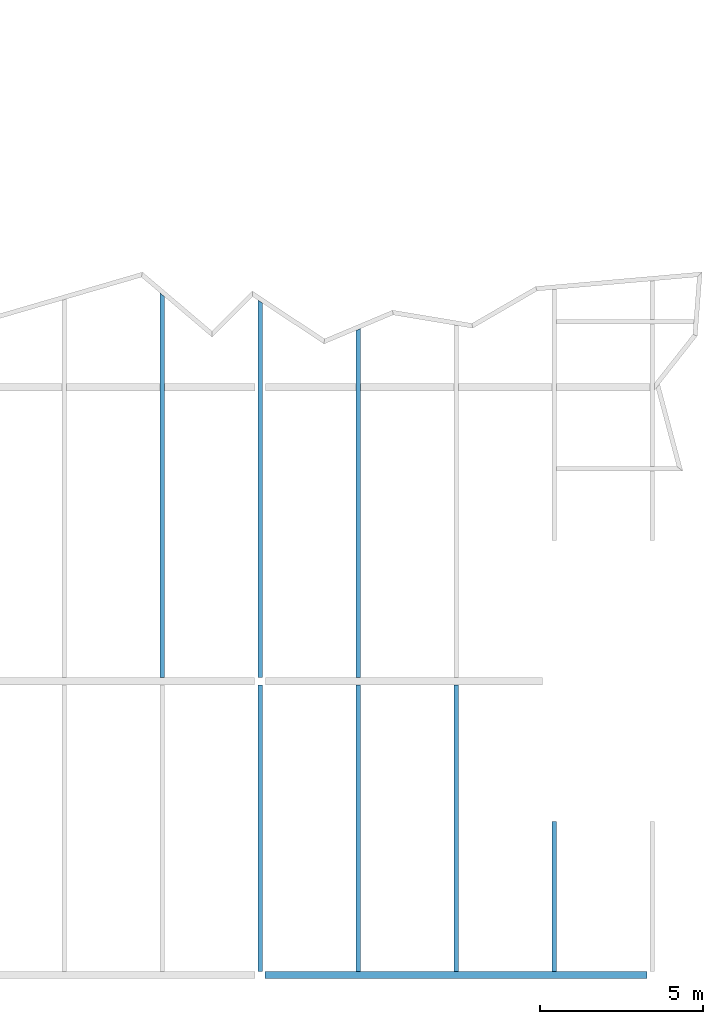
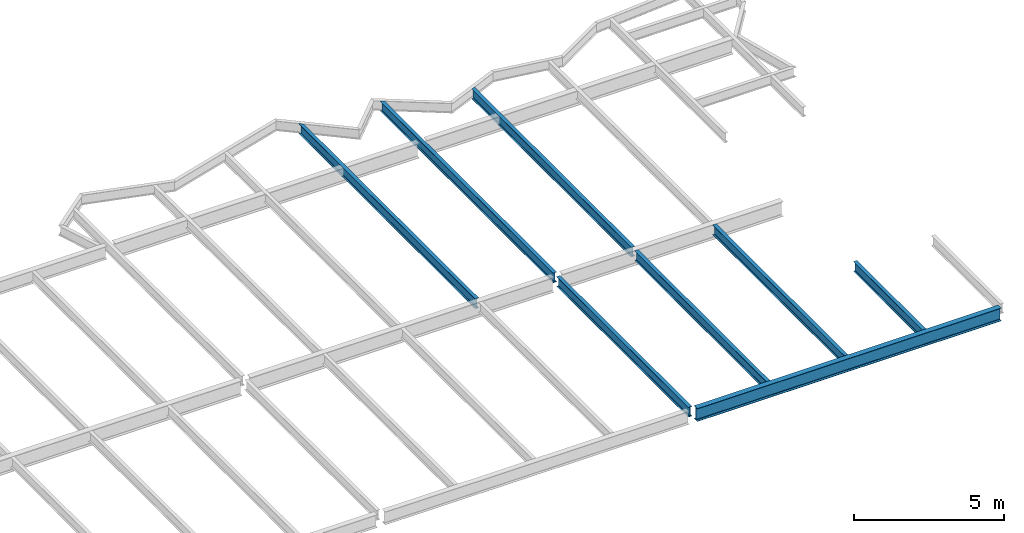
# One storey, part 18 of 21: 8 beams.
"""IFC2X3 building model written with IfcOpenShell, lengths in millimetres."""

from ifc_helpers import new_model, si_unit, origin, place, context, project, spatial, faceted_brep, material, element, save


model = new_model("IFC2X3")

# Units and contexts
context_of_model = context(None, 3, precision=1e-05, world=origin())
ifc_project = project(units=[si_unit("LENGTHUNIT", "METRE", prefix="MILLI")], contexts=[context_of_model])

# Building, storey
building = spatial("IfcBuilding", under=ifc_project, Name="Building", CompositionType="ELEMENT")
storey = spatial("IfcBuildingStorey", under=building, Name="FL3-FRM", CompositionType="ELEMENT")

# Beams
ifc_material_1 = material(Name="A992")
beam_1_placement = place(None, origin())
element("IfcBeam", 1, at=beam_1_placement, inside=storey, material=ifc_material_1, Name="B494", context=context_of_model, shape_type="Brep", body=[
    faceted_brep([(72070.0, 9104.5, 8474.0), (71930.0, 9104.5, 8474.0), (71930.0, 17885.5, 8474.0), (72070.0, 17885.5, 8474.0), (71930.0, 9104.5, 8482.8), (71930.0, 17885.5, 8482.8), (71986.6, 9104.5, 8482.8), (71986.6, 17885.5, 8482.8), (71989.2, 9104.5, 8483.15), (71989.2, 17885.5, 8483.15), (71991.7, 9104.5, 8484.17), (71991.7, 17885.5, 8484.17), (71993.8, 9104.5, 8485.79), (71993.8, 17885.5, 8485.79), (71995.4, 9104.5, 8487.9), (71995.4, 17885.5, 8487.9), (71996.5, 9104.5, 8490.36), (71996.5, 17885.5, 8490.36), (71996.8, 9104.5, 8493.0), (71996.8, 17885.5, 8493.0), (71996.8, 9104.5, 8854.0), (71996.8, 17885.5, 8854.0), (71996.5, 9104.5, 8856.64), (71996.5, 17885.5, 8856.64), (71995.4, 9104.5, 8859.1), (71995.4, 17885.5, 8859.1), (71993.8, 9104.5, 8861.21), (71993.8, 17885.5, 8861.21), (71991.7, 9104.5, 8862.83), (71991.7, 17885.5, 8862.83), (71989.2, 9104.5, 8863.85), (71989.2, 17885.5, 8863.85), (71986.6, 9104.5, 8864.2), (71986.6, 17885.5, 8864.2), (71930.0, 9104.5, 8864.2), (71930.0, 17885.5, 8864.2), (71930.0, 9104.5, 8873.0), (71930.0, 17885.5, 8873.0), (72070.0, 9104.5, 8873.0), (72070.0, 17885.5, 8873.0), (72070.0, 9104.5, 8864.2), (72070.0, 17885.5, 8864.2), (72013.4, 9104.5, 8864.2), (72013.4, 17885.5, 8864.2), (72010.8, 9104.5, 8863.85), (72010.8, 17885.5, 8863.85), (72008.3, 9104.5, 8862.83), (72008.3, 17885.5, 8862.83), (72006.2, 9104.5, 8861.21), (72006.2, 17885.5, 8861.21), (72004.6, 9104.5, 8859.1), (72004.6, 17885.5, 8859.1), (72003.5, 9104.5, 8856.64), (72003.5, 17885.5, 8856.64), (72003.2, 9104.5, 8854.0), (72003.2, 17885.5, 8854.0), (72003.2, 9104.5, 8493.0), (72003.2, 17885.5, 8493.0), (72003.5, 9104.5, 8490.36), (72003.5, 17885.5, 8490.36), (72004.6, 9104.5, 8487.9), (72004.6, 17885.5, 8487.9), (72006.2, 9104.5, 8485.79), (72006.2, 17885.5, 8485.79), (72008.3, 9104.5, 8484.17), (72008.3, 17885.5, 8484.17), (72010.8, 9104.5, 8483.15), (72010.8, 17885.5, 8483.15), (72013.4, 9104.5, 8482.8), (72013.4, 17885.5, 8482.8), (72070.0, 9104.5, 8482.8), (72070.0, 17885.5, 8482.8)], [[[0, 1, 2, 3]], [[1, 4, 5, 2]], [[4, 6, 7, 5]], [[6, 8, 9, 7]], [[8, 10, 11, 9]], [[10, 12, 13, 11]], [[12, 14, 15, 13]], [[14, 16, 17, 15]], [[16, 18, 19, 17]], [[18, 20, 21, 19]], [[20, 22, 23, 21]], [[22, 24, 25, 23]], [[24, 26, 27, 25]], [[26, 28, 29, 27]], [[28, 30, 31, 29]], [[30, 32, 33, 31]], [[32, 34, 35, 33]], [[34, 36, 37, 35]], [[36, 38, 39, 37]], [[38, 40, 41, 39]], [[40, 42, 43, 41]], [[42, 44, 45, 43]], [[44, 46, 47, 45]], [[46, 48, 49, 47]], [[48, 50, 51, 49]], [[50, 52, 53, 51]], [[52, 54, 55, 53]], [[54, 56, 57, 55]], [[56, 58, 59, 57]], [[58, 60, 61, 59]], [[60, 62, 63, 61]], [[62, 64, 65, 63]], [[64, 66, 67, 65]], [[66, 68, 69, 67]], [[68, 70, 71, 69]], [[70, 0, 3, 71]], [[0, 70, 68, 66, 64, 62, 60, 58, 56, 54, 52, 50, 48, 46, 44, 42, 40, 38, 36, 34, 32, 30, 28, 26, 24, 22, 20, 18, 16, 14, 12, 10, 8, 6, 4, 1]], [[3, 2, 5, 7, 9, 11, 13, 15, 17, 19, 21, 23, 25, 27, 29, 31, 33, 35, 37, 39, 41, 43, 45, 47, 49, 51, 53, 55, 57, 59, 61, 63, 65, 67, 69, 71]]]),
])
ifc_material_2 = material(Name="A992")
beam_2_placement = place(None, origin())
element("IfcBeam", 2, at=beam_2_placement, inside=storey, material=ifc_material_2, Name="Column486", context=context_of_model, shape_type="Brep", body=[
    faceted_brep([(72154.0, 8895.5, 8345.0), (72154.0, 9104.5, 8345.0), (83847.0, 9104.5, 8345.0), (83847.0, 8895.5, 8345.0), (72154.0, 9104.5, 8358.3), (83847.0, 9104.5, 8358.3), (72154.0, 9017.45, 8358.3), (83847.0, 9017.45, 8358.3), (72154.0, 9014.16, 8358.73), (83847.0, 9014.16, 8358.73), (72154.0, 9011.1, 8360.0), (83847.0, 9011.1, 8360.0), (72154.0, 9008.47, 8362.02), (83847.0, 9008.47, 8362.02), (72154.0, 9006.45, 8364.65), (83847.0, 9006.45, 8364.65), (72154.0, 9005.18, 8367.71), (83847.0, 9005.18, 8367.71), (72154.0, 9004.75, 8371.0), (83847.0, 9004.75, 8371.0), (72154.0, 9004.75, 8847.0), (83847.0, 9004.75, 8847.0), (72154.0, 9005.18, 8850.29), (83847.0, 9005.18, 8850.29), (72154.0, 9006.45, 8853.35), (83847.0, 9006.45, 8853.35), (72154.0, 9008.47, 8855.98), (83847.0, 9008.47, 8855.98), (72154.0, 9011.1, 8858.0), (83847.0, 9011.1, 8858.0), (72154.0, 9014.16, 8859.27), (83847.0, 9014.16, 8859.27), (72154.0, 9017.45, 8859.7), (83847.0, 9017.45, 8859.7), (72154.0, 9104.5, 8859.7), (83847.0, 9104.5, 8859.7), (72154.0, 9104.5, 8873.0), (83847.0, 9104.5, 8873.0), (72154.0, 8895.5, 8873.0), (83847.0, 8895.5, 8873.0), (72154.0, 8895.5, 8859.7), (83847.0, 8895.5, 8859.7), (72154.0, 8982.55, 8859.7), (83847.0, 8982.55, 8859.7), (72154.0, 8985.84, 8859.27), (83847.0, 8985.84, 8859.27), (72154.0, 8988.9, 8858.0), (83847.0, 8988.9, 8858.0), (72154.0, 8991.53, 8855.98), (83847.0, 8991.53, 8855.98), (72154.0, 8993.55, 8853.35), (83847.0, 8993.55, 8853.35), (72154.0, 8994.82, 8850.29), (83847.0, 8994.82, 8850.29), (72154.0, 8995.25, 8847.0), (83847.0, 8995.25, 8847.0), (72154.0, 8995.25, 8371.0), (83847.0, 8995.25, 8371.0), (72154.0, 8994.82, 8367.71), (83847.0, 8994.82, 8367.71), (72154.0, 8993.55, 8364.65), (83847.0, 8993.55, 8364.65), (72154.0, 8991.53, 8362.02), (83847.0, 8991.53, 8362.02), (72154.0, 8988.9, 8360.0), (83847.0, 8988.9, 8360.0), (72154.0, 8985.84, 8358.73), (83847.0, 8985.84, 8358.73), (72154.0, 8982.55, 8358.3), (83847.0, 8982.55, 8358.3), (72154.0, 8895.5, 8358.3), (83847.0, 8895.5, 8358.3)], [[[0, 1, 2, 3]], [[1, 4, 5, 2]], [[4, 6, 7, 5]], [[6, 8, 9, 7]], [[8, 10, 11, 9]], [[10, 12, 13, 11]], [[12, 14, 15, 13]], [[14, 16, 17, 15]], [[16, 18, 19, 17]], [[18, 20, 21, 19]], [[20, 22, 23, 21]], [[22, 24, 25, 23]], [[24, 26, 27, 25]], [[26, 28, 29, 27]], [[28, 30, 31, 29]], [[30, 32, 33, 31]], [[32, 34, 35, 33]], [[34, 36, 37, 35]], [[36, 38, 39, 37]], [[38, 40, 41, 39]], [[40, 42, 43, 41]], [[42, 44, 45, 43]], [[44, 46, 47, 45]], [[46, 48, 49, 47]], [[48, 50, 51, 49]], [[50, 52, 53, 51]], [[52, 54, 55, 53]], [[54, 56, 57, 55]], [[56, 58, 59, 57]], [[58, 60, 61, 59]], [[60, 62, 63, 61]], [[62, 64, 65, 63]], [[64, 66, 67, 65]], [[66, 68, 69, 67]], [[68, 70, 71, 69]], [[70, 0, 3, 71]], [[0, 70, 68, 66, 64, 62, 60, 58, 56, 54, 52, 50, 48, 46, 44, 42, 40, 38, 36, 34, 32, 30, 28, 26, 24, 22, 20, 18, 16, 14, 12, 10, 8, 6, 4, 1]], [[3, 2, 5, 7, 9, 11, 13, 15, 17, 19, 21, 23, 25, 27, 29, 31, 33, 35, 37, 39, 41, 43, 45, 47, 49, 51, 53, 55, 57, 59, 61, 63, 65, 67, 69, 71]]]),
])
ifc_material_3 = material(Name="A992")
beam_3_placement = place(None, origin())
element("IfcBeam", 3, at=beam_3_placement, inside=storey, material=ifc_material_3, Name="B1047", context=context_of_model, shape_type="Brep", body=[
    faceted_brep([(74930.0, 28731.0, 8474.0), (75070.0, 28790.0, 8474.0), (75070.0, 18114.5, 8474.0), (74930.0, 18114.5, 8474.0), (75070.0, 28790.0, 8482.8), (75070.0, 18114.5, 8482.8), (75013.4, 28766.1, 8482.8), (75013.4, 18114.5, 8482.8), (75012.0, 28765.5, 8482.9), (75011.9, 18114.5, 8482.9), (75010.5, 28764.9, 8483.21), (75010.5, 18114.5, 8483.21), (75009.2, 28764.3, 8483.72), (75009.2, 18114.5, 8483.72), (75007.9, 28763.8, 8484.41), (75007.9, 18114.5, 8484.42), (75006.7, 28763.3, 8485.28), (75006.7, 18114.5, 8485.29), (75005.7, 28762.9, 8486.32), (75005.7, 18114.5, 8486.32), (75004.8, 28762.5, 8487.47), (75004.8, 18114.5, 8487.49), (75004.1, 28762.2, 8488.76), (75004.1, 18114.5, 8488.76), (75003.6, 28762.0, 8490.12), (75003.6, 18114.5, 8490.13), (75003.3, 28761.9, 8491.54), (75003.3, 18114.5, 8491.55), (75003.2, 28761.8, 8493.0), (75003.2, 18114.5, 8493.0), (75003.2, 28761.8, 8854.0), (75003.2, 18114.5, 8854.0), (75003.3, 28761.9, 8855.46), (75003.3, 18114.5, 8855.45), (75003.6, 28762.0, 8856.88), (75003.6, 18114.5, 8856.87), (75004.1, 28762.2, 8858.24), (75004.1, 18114.5, 8858.24), (75004.8, 28762.5, 8859.53), (75004.8, 18114.5, 8859.51), (75005.7, 28762.9, 8860.68), (75005.7, 18114.5, 8860.68), (75006.7, 28763.3, 8861.72), (75006.7, 18114.5, 8861.71), (75007.9, 28763.8, 8862.59), (75007.9, 18114.5, 8862.58), (75009.2, 28764.3, 8863.28), (75009.2, 18114.5, 8863.28), (75010.5, 28764.9, 8863.79), (75010.5, 18114.5, 8863.79), (75012.0, 28765.5, 8864.1), (75011.9, 18114.5, 8864.1), (75013.4, 28766.1, 8864.2), (75013.4, 18114.5, 8864.2), (75070.0, 28790.0, 8864.2), (75070.0, 18114.5, 8864.2), (75070.0, 28790.0, 8873.0), (75070.0, 18114.5, 8873.0), (74930.0, 28731.0, 8873.0), (74930.0, 18114.5, 8873.0), (74930.0, 28731.0, 8864.2), (74930.0, 18114.5, 8864.2), (74986.6, 28754.8, 8864.2), (74986.6, 18114.5, 8864.2), (74988.0, 28755.4, 8864.1), (74988.1, 18114.5, 8864.1), (74989.5, 28756.0, 8863.79), (74989.5, 18114.5, 8863.79), (74990.8, 28756.6, 8863.28), (74990.8, 18114.5, 8863.28), (74992.1, 28757.2, 8862.59), (74992.1, 18114.5, 8862.58), (74993.3, 28757.6, 8861.72), (74993.3, 18114.5, 8861.71), (74994.3, 28758.1, 8860.68), (74994.3, 18114.5, 8860.68), (74995.2, 28758.4, 8859.53), (74995.2, 18114.5, 8859.51), (74995.9, 28758.7, 8858.24), (74995.9, 18114.5, 8858.24), (74996.4, 28759.0, 8856.88), (74996.4, 18114.5, 8856.87), (74996.7, 28759.1, 8855.46), (74996.7, 18114.5, 8855.45), (74996.8, 28759.1, 8854.0), (74996.8, 18114.5, 8854.0), (74996.8, 28759.1, 8493.0), (74996.8, 18114.5, 8493.0), (74996.7, 28759.1, 8491.54), (74996.7, 18114.5, 8491.55), (74996.4, 28759.0, 8490.12), (74996.4, 18114.5, 8490.13), (74995.9, 28758.7, 8488.76), (74995.9, 18114.5, 8488.76), (74995.2, 28758.4, 8487.47), (74995.2, 18114.5, 8487.49), (74994.3, 28758.1, 8486.32), (74994.3, 18114.5, 8486.32), (74993.3, 28757.6, 8485.28), (74993.3, 18114.5, 8485.29), (74992.1, 28757.2, 8484.41), (74992.1, 18114.5, 8484.42), (74990.8, 28756.6, 8483.72), (74990.8, 18114.5, 8483.72), (74989.5, 28756.0, 8483.21), (74989.5, 18114.5, 8483.21), (74988.0, 28755.4, 8482.9), (74988.1, 18114.5, 8482.9), (74986.6, 28754.8, 8482.8), (74986.6, 18114.5, 8482.8), (74930.0, 28731.0, 8482.8), (74930.0, 18114.5, 8482.8)], [[[0, 1, 2, 3]], [[1, 4, 5, 2]], [[4, 6, 7, 5]], [[6, 8, 9, 7]], [[8, 10, 11, 9]], [[10, 12, 13, 11]], [[12, 14, 15, 13]], [[14, 16, 17, 15]], [[16, 18, 19, 17]], [[18, 20, 21, 19]], [[20, 22, 23, 21]], [[22, 24, 25, 23]], [[24, 26, 27, 25]], [[26, 28, 29, 27]], [[28, 30, 31, 29]], [[30, 32, 33, 31]], [[32, 34, 35, 33]], [[34, 36, 37, 35]], [[36, 38, 39, 37]], [[38, 40, 41, 39]], [[40, 42, 43, 41]], [[42, 44, 45, 43]], [[44, 46, 47, 45]], [[46, 48, 49, 47]], [[48, 50, 51, 49]], [[50, 52, 53, 51]], [[52, 54, 55, 53]], [[54, 56, 57, 55]], [[56, 58, 59, 57]], [[58, 60, 61, 59]], [[60, 62, 63, 61]], [[62, 64, 65, 63]], [[64, 66, 67, 65]], [[66, 68, 69, 67]], [[68, 70, 71, 69]], [[70, 72, 73, 71]], [[72, 74, 75, 73]], [[74, 76, 77, 75]], [[76, 78, 79, 77]], [[78, 80, 81, 79]], [[80, 82, 83, 81]], [[82, 84, 85, 83]], [[84, 86, 87, 85]], [[86, 88, 89, 87]], [[88, 90, 91, 89]], [[90, 92, 93, 91]], [[92, 94, 95, 93]], [[94, 96, 97, 95]], [[96, 98, 99, 97]], [[98, 100, 101, 99]], [[100, 102, 103, 101]], [[102, 104, 105, 103]], [[104, 106, 107, 105]], [[106, 108, 109, 107]], [[108, 110, 111, 109]], [[110, 0, 3, 111]], [[0, 110, 108, 106, 104, 102, 100, 98, 96, 94, 92, 90, 88, 86, 84, 82, 80, 78, 76, 74, 72, 70, 68, 66, 64, 62, 60, 58, 56, 54, 52, 50, 48, 46, 44, 42, 40, 38, 36, 34, 32, 30, 28, 26, 24, 22, 20, 18, 16, 14, 12, 10, 8, 6, 4, 1]], [[3, 2, 5, 7, 9, 11, 13, 15, 17, 19, 21, 23, 25, 27, 29, 31, 33, 35, 37, 39, 41, 43, 45, 47, 49, 51, 53, 55, 57, 59, 61, 63, 65, 67, 69, 71, 73, 75, 77, 79, 81, 83, 85, 87, 89, 91, 93, 95, 97, 99, 101, 103, 105, 107, 109, 111]]]),
])
ifc_material_4 = material(Name="A992")
beam_4_placement = place(None, origin())
element("IfcBeam", 4, at=beam_4_placement, inside=storey, material=ifc_material_4, Name="B1050", context=context_of_model, shape_type="Brep", body=[
    faceted_brep([(71930.0, 29663.5, 8474.0), (72070.0, 29570.7, 8474.0), (72070.0, 18114.5, 8474.0), (71930.0, 18114.5, 8474.0), (72070.0, 29570.7, 8482.8), (72070.0, 18114.5, 8482.8), (72013.4, 29608.2, 8482.8), (72013.4, 18114.5, 8482.8), (72012.0, 29609.2, 8482.89), (72011.9, 18114.5, 8482.9), (72010.5, 29610.1, 8483.2), (72010.5, 18114.5, 8483.21), (72009.2, 29611.0, 8483.72), (72009.2, 18114.5, 8483.72), (72007.9, 29611.8, 8484.4), (72007.9, 18114.5, 8484.42), (72006.7, 29612.6, 8485.27), (72006.7, 18114.5, 8485.29), (72005.7, 29613.3, 8486.31), (72005.7, 18114.5, 8486.32), (72004.8, 29613.9, 8487.46), (72004.8, 18114.5, 8487.49), (72004.1, 29614.3, 8488.75), (72004.1, 18114.5, 8488.76), (72003.6, 29614.7, 8490.12), (72003.6, 18114.5, 8490.13), (72003.3, 29614.9, 8491.54), (72003.3, 18114.5, 8491.55), (72003.2, 29615.0, 8493.0), (72003.2, 18114.5, 8493.0), (72003.2, 29615.0, 8854.0), (72003.2, 18114.5, 8854.0), (72003.3, 29614.9, 8855.46), (72003.3, 18114.5, 8855.45), (72003.6, 29614.7, 8856.88), (72003.6, 18114.5, 8856.87), (72004.1, 29614.3, 8858.25), (72004.1, 18114.5, 8858.24), (72004.8, 29613.9, 8859.54), (72004.8, 18114.5, 8859.51), (72005.7, 29613.3, 8860.69), (72005.7, 18114.5, 8860.68), (72006.7, 29612.6, 8861.73), (72006.7, 18114.5, 8861.71), (72007.9, 29611.8, 8862.6), (72007.9, 18114.5, 8862.58), (72009.2, 29611.0, 8863.28), (72009.2, 18114.5, 8863.28), (72010.5, 29610.1, 8863.8), (72010.5, 18114.5, 8863.79), (72012.0, 29609.2, 8864.11), (72011.9, 18114.5, 8864.1), (72013.4, 29608.2, 8864.2), (72013.4, 18114.5, 8864.2), (72070.0, 29570.7, 8864.2), (72070.0, 18114.5, 8864.2), (72070.0, 29570.7, 8873.0), (72070.0, 18114.5, 8873.0), (71930.0, 29663.5, 8873.0), (71930.0, 18114.5, 8873.0), (71930.0, 29663.5, 8864.2), (71930.0, 18114.5, 8864.2), (71986.6, 29626.0, 8864.2), (71986.6, 18114.5, 8864.2), (71988.0, 29625.0, 8864.11), (71988.1, 18114.5, 8864.1), (71989.5, 29624.1, 8863.8), (71989.5, 18114.5, 8863.79), (71990.8, 29623.2, 8863.28), (71990.8, 18114.5, 8863.28), (71992.1, 29622.3, 8862.6), (71992.1, 18114.5, 8862.58), (71993.3, 29621.5, 8861.73), (71993.3, 18114.5, 8861.71), (71994.3, 29620.9, 8860.69), (71994.3, 18114.5, 8860.68), (71995.2, 29620.3, 8859.54), (71995.2, 18114.5, 8859.51), (71995.9, 29619.8, 8858.25), (71995.9, 18114.5, 8858.24), (71996.4, 29619.5, 8856.88), (71996.4, 18114.5, 8856.87), (71996.7, 29619.3, 8855.46), (71996.7, 18114.5, 8855.45), (71996.8, 29619.2, 8854.0), (71996.8, 18114.5, 8854.0), (71996.8, 29619.2, 8493.0), (71996.8, 18114.5, 8493.0), (71996.7, 29619.3, 8491.54), (71996.7, 18114.5, 8491.55), (71996.4, 29619.5, 8490.12), (71996.4, 18114.5, 8490.13), (71995.9, 29619.8, 8488.75), (71995.9, 18114.5, 8488.76), (71995.2, 29620.3, 8487.46), (71995.2, 18114.5, 8487.49), (71994.3, 29620.9, 8486.31), (71994.3, 18114.5, 8486.32), (71993.3, 29621.5, 8485.27), (71993.3, 18114.5, 8485.29), (71992.1, 29622.3, 8484.4), (71992.1, 18114.5, 8484.42), (71990.8, 29623.2, 8483.72), (71990.8, 18114.5, 8483.72), (71989.5, 29624.1, 8483.2), (71989.5, 18114.5, 8483.21), (71988.0, 29625.0, 8482.89), (71988.1, 18114.5, 8482.9), (71986.6, 29626.0, 8482.8), (71986.6, 18114.5, 8482.8), (71930.0, 29663.5, 8482.8), (71930.0, 18114.5, 8482.8)], [[[0, 1, 2, 3]], [[1, 4, 5, 2]], [[4, 6, 7, 5]], [[6, 8, 9, 7]], [[8, 10, 11, 9]], [[10, 12, 13, 11]], [[12, 14, 15, 13]], [[14, 16, 17, 15]], [[16, 18, 19, 17]], [[18, 20, 21, 19]], [[20, 22, 23, 21]], [[22, 24, 25, 23]], [[24, 26, 27, 25]], [[26, 28, 29, 27]], [[28, 30, 31, 29]], [[30, 32, 33, 31]], [[32, 34, 35, 33]], [[34, 36, 37, 35]], [[36, 38, 39, 37]], [[38, 40, 41, 39]], [[40, 42, 43, 41]], [[42, 44, 45, 43]], [[44, 46, 47, 45]], [[46, 48, 49, 47]], [[48, 50, 51, 49]], [[50, 52, 53, 51]], [[52, 54, 55, 53]], [[54, 56, 57, 55]], [[56, 58, 59, 57]], [[58, 60, 61, 59]], [[60, 62, 63, 61]], [[62, 64, 65, 63]], [[64, 66, 67, 65]], [[66, 68, 69, 67]], [[68, 70, 71, 69]], [[70, 72, 73, 71]], [[72, 74, 75, 73]], [[74, 76, 77, 75]], [[76, 78, 79, 77]], [[78, 80, 81, 79]], [[80, 82, 83, 81]], [[82, 84, 85, 83]], [[84, 86, 87, 85]], [[86, 88, 89, 87]], [[88, 90, 91, 89]], [[90, 92, 93, 91]], [[92, 94, 95, 93]], [[94, 96, 97, 95]], [[96, 98, 99, 97]], [[98, 100, 101, 99]], [[100, 102, 103, 101]], [[102, 104, 105, 103]], [[104, 106, 107, 105]], [[106, 108, 109, 107]], [[108, 110, 111, 109]], [[110, 0, 3, 111]], [[0, 110, 108, 106, 104, 102, 100, 98, 96, 94, 92, 90, 88, 86, 84, 82, 80, 78, 76, 74, 72, 70, 68, 66, 64, 62, 60, 58, 56, 54, 52, 50, 48, 46, 44, 42, 40, 38, 36, 34, 32, 30, 28, 26, 24, 22, 20, 18, 16, 14, 12, 10, 8, 6, 4, 1]], [[3, 2, 5, 7, 9, 11, 13, 15, 17, 19, 21, 23, 25, 27, 29, 31, 33, 35, 37, 39, 41, 43, 45, 47, 49, 51, 53, 55, 57, 59, 61, 63, 65, 67, 69, 71, 73, 75, 77, 79, 81, 83, 85, 87, 89, 91, 93, 95, 97, 99, 101, 103, 105, 107, 109, 111]]]),
])
ifc_material_5 = material(Name="A992")
beam_5_placement = place(None, origin())
element("IfcBeam", 5, at=beam_5_placement, inside=storey, material=ifc_material_5, Name="B1053", context=context_of_model, shape_type="Brep", body=[
    faceted_brep([(68930.0, 29886.4, 8474.0), (69070.0, 29767.4, 8474.0), (69070.0, 18114.5, 8474.0), (68930.0, 18114.5, 8474.0), (69070.0, 29767.4, 8482.8), (69070.0, 18114.5, 8482.8), (69013.4, 29815.5, 8482.8), (69013.4, 18114.5, 8482.8), (69012.0, 29816.7, 8482.89), (69011.9, 18114.5, 8482.9), (69010.5, 29818.0, 8483.2), (69010.5, 18114.5, 8483.21), (69009.2, 29819.1, 8483.72), (69009.2, 18114.5, 8483.72), (69007.9, 29820.2, 8484.39), (69007.9, 18114.5, 8484.42), (69006.7, 29821.2, 8485.27), (69006.7, 18114.5, 8485.29), (69005.7, 29822.1, 8486.3), (69005.7, 18114.5, 8486.32), (69004.8, 29822.8, 8487.44), (69004.8, 18114.5, 8487.49), (69004.1, 29823.4, 8488.74), (69004.1, 18114.5, 8488.76), (69003.6, 29823.8, 8490.11), (69003.6, 18114.5, 8490.13), (69003.3, 29824.1, 8491.53), (69003.3, 18114.5, 8491.55), (69003.2, 29824.2, 8493.0), (69003.2, 18114.5, 8493.0), (69003.2, 29824.2, 8854.0), (69003.2, 18114.5, 8854.0), (69003.3, 29824.1, 8855.47), (69003.3, 18114.5, 8855.45), (69003.6, 29823.8, 8856.89), (69003.6, 18114.5, 8856.87), (69004.1, 29823.4, 8858.26), (69004.1, 18114.5, 8858.24), (69004.8, 29822.8, 8859.56), (69004.8, 18114.5, 8859.51), (69005.7, 29822.1, 8860.7), (69005.7, 18114.5, 8860.68), (69006.7, 29821.2, 8861.73), (69006.7, 18114.5, 8861.71), (69007.9, 29820.2, 8862.61), (69007.9, 18114.5, 8862.58), (69009.2, 29819.1, 8863.28), (69009.2, 18114.5, 8863.28), (69010.5, 29818.0, 8863.8), (69010.5, 18114.5, 8863.79), (69012.0, 29816.7, 8864.11), (69011.9, 18114.5, 8864.1), (69013.4, 29815.5, 8864.2), (69013.4, 18114.5, 8864.2), (69070.0, 29767.4, 8864.2), (69070.0, 18114.5, 8864.2), (69070.0, 29767.4, 8873.0), (69070.0, 18114.5, 8873.0), (68930.0, 29886.4, 8873.0), (68930.0, 18114.5, 8873.0), (68930.0, 29886.4, 8864.2), (68930.0, 18114.5, 8864.2), (68986.6, 29838.3, 8864.2), (68986.6, 18114.5, 8864.2), (68988.0, 29837.1, 8864.11), (68988.1, 18114.5, 8864.1), (68989.5, 29835.9, 8863.8), (68989.5, 18114.5, 8863.79), (68990.8, 29834.7, 8863.28), (68990.8, 18114.5, 8863.28), (68992.1, 29833.6, 8862.61), (68992.1, 18114.5, 8862.58), (68993.3, 29832.6, 8861.73), (68993.3, 18114.5, 8861.71), (68994.3, 29831.8, 8860.7), (68994.3, 18114.5, 8860.68), (68995.2, 29831.0, 8859.56), (68995.2, 18114.5, 8859.51), (68995.9, 29830.4, 8858.26), (68995.9, 18114.5, 8858.24), (68996.4, 29830.0, 8856.89), (68996.4, 18114.5, 8856.87), (68996.7, 29829.7, 8855.47), (68996.7, 18114.5, 8855.45), (68996.8, 29829.6, 8854.0), (68996.8, 18114.5, 8854.0), (68996.8, 29829.6, 8493.0), (68996.8, 18114.5, 8493.0), (68996.7, 29829.7, 8491.53), (68996.7, 18114.5, 8491.55), (68996.4, 29830.0, 8490.11), (68996.4, 18114.5, 8490.13), (68995.9, 29830.4, 8488.74), (68995.9, 18114.5, 8488.76), (68995.2, 29831.0, 8487.44), (68995.2, 18114.5, 8487.49), (68994.3, 29831.8, 8486.3), (68994.3, 18114.5, 8486.32), (68993.3, 29832.6, 8485.27), (68993.3, 18114.5, 8485.29), (68992.1, 29833.6, 8484.39), (68992.1, 18114.5, 8484.42), (68990.8, 29834.7, 8483.72), (68990.8, 18114.5, 8483.72), (68989.5, 29835.9, 8483.2), (68989.5, 18114.5, 8483.21), (68988.0, 29837.1, 8482.89), (68988.1, 18114.5, 8482.9), (68986.6, 29838.3, 8482.8), (68986.6, 18114.5, 8482.8), (68930.0, 29886.4, 8482.8), (68930.0, 18114.5, 8482.8)], [[[0, 1, 2, 3]], [[1, 4, 5, 2]], [[4, 6, 7, 5]], [[6, 8, 9, 7]], [[8, 10, 11, 9]], [[10, 12, 13, 11]], [[12, 14, 15, 13]], [[14, 16, 17, 15]], [[16, 18, 19, 17]], [[18, 20, 21, 19]], [[20, 22, 23, 21]], [[22, 24, 25, 23]], [[24, 26, 27, 25]], [[26, 28, 29, 27]], [[28, 30, 31, 29]], [[30, 32, 33, 31]], [[32, 34, 35, 33]], [[34, 36, 37, 35]], [[36, 38, 39, 37]], [[38, 40, 41, 39]], [[40, 42, 43, 41]], [[42, 44, 45, 43]], [[44, 46, 47, 45]], [[46, 48, 49, 47]], [[48, 50, 51, 49]], [[50, 52, 53, 51]], [[52, 54, 55, 53]], [[54, 56, 57, 55]], [[56, 58, 59, 57]], [[58, 60, 61, 59]], [[60, 62, 63, 61]], [[62, 64, 65, 63]], [[64, 66, 67, 65]], [[66, 68, 69, 67]], [[68, 70, 71, 69]], [[70, 72, 73, 71]], [[72, 74, 75, 73]], [[74, 76, 77, 75]], [[76, 78, 79, 77]], [[78, 80, 81, 79]], [[80, 82, 83, 81]], [[82, 84, 85, 83]], [[84, 86, 87, 85]], [[86, 88, 89, 87]], [[88, 90, 91, 89]], [[90, 92, 93, 91]], [[92, 94, 95, 93]], [[94, 96, 97, 95]], [[96, 98, 99, 97]], [[98, 100, 101, 99]], [[100, 102, 103, 101]], [[102, 104, 105, 103]], [[104, 106, 107, 105]], [[106, 108, 109, 107]], [[108, 110, 111, 109]], [[110, 0, 3, 111]], [[0, 110, 108, 106, 104, 102, 100, 98, 96, 94, 92, 90, 88, 86, 84, 82, 80, 78, 76, 74, 72, 70, 68, 66, 64, 62, 60, 58, 56, 54, 52, 50, 48, 46, 44, 42, 40, 38, 36, 34, 32, 30, 28, 26, 24, 22, 20, 18, 16, 14, 12, 10, 8, 6, 4, 1]], [[3, 2, 5, 7, 9, 11, 13, 15, 17, 19, 21, 23, 25, 27, 29, 31, 33, 35, 37, 39, 41, 43, 45, 47, 49, 51, 53, 55, 57, 59, 61, 63, 65, 67, 69, 71, 73, 75, 77, 79, 81, 83, 85, 87, 89, 91, 93, 95, 97, 99, 101, 103, 105, 107, 109, 111]]]),
])
ifc_material_6 = material(Name="A992")
beam_6_placement = place(None, origin())
element("IfcBeam", 6, at=beam_6_placement, inside=storey, material=ifc_material_6, Name="B1062", context=context_of_model, shape_type="Brep", body=[
    faceted_brep([(81070.0, 9104.5, 8474.0), (80930.0, 9104.5, 8474.0), (80930.0, 13700.0, 8474.0), (81070.0, 13700.0, 8474.0), (80930.0, 9104.5, 8482.8), (80930.0, 13700.0, 8482.8), (80986.6, 9104.5, 8482.8), (80986.6, 13700.0, 8482.8), (80989.2, 9104.5, 8483.15), (80989.2, 13700.0, 8483.15), (80991.7, 9104.5, 8484.17), (80991.7, 13700.0, 8484.17), (80993.8, 9104.5, 8485.79), (80993.8, 13700.0, 8485.79), (80995.4, 9104.5, 8487.9), (80995.4, 13700.0, 8487.9), (80996.5, 9104.5, 8490.36), (80996.5, 13700.0, 8490.36), (80996.8, 9104.5, 8493.0), (80996.8, 13700.0, 8493.0), (80996.8, 9104.5, 8854.0), (80996.8, 13700.0, 8854.0), (80996.5, 9104.5, 8856.64), (80996.5, 13700.0, 8856.64), (80995.4, 9104.5, 8859.1), (80995.4, 13700.0, 8859.1), (80993.8, 9104.5, 8861.21), (80993.8, 13700.0, 8861.21), (80991.7, 9104.5, 8862.83), (80991.7, 13700.0, 8862.83), (80989.2, 9104.5, 8863.85), (80989.2, 13700.0, 8863.85), (80986.6, 9104.5, 8864.2), (80986.6, 13700.0, 8864.2), (80930.0, 9104.5, 8864.2), (80930.0, 13700.0, 8864.2), (80930.0, 9104.5, 8873.0), (80930.0, 13700.0, 8873.0), (81070.0, 9104.5, 8873.0), (81070.0, 13700.0, 8873.0), (81070.0, 9104.5, 8864.2), (81070.0, 13700.0, 8864.2), (81013.4, 9104.5, 8864.2), (81013.4, 13700.0, 8864.2), (81010.8, 9104.5, 8863.85), (81010.8, 13700.0, 8863.85), (81008.3, 9104.5, 8862.83), (81008.3, 13700.0, 8862.83), (81006.2, 9104.5, 8861.21), (81006.2, 13700.0, 8861.21), (81004.6, 9104.5, 8859.1), (81004.6, 13700.0, 8859.1), (81003.5, 9104.5, 8856.64), (81003.5, 13700.0, 8856.64), (81003.2, 9104.5, 8854.0), (81003.2, 13700.0, 8854.0), (81003.2, 9104.5, 8493.0), (81003.2, 13700.0, 8493.0), (81003.5, 9104.5, 8490.36), (81003.5, 13700.0, 8490.36), (81004.6, 9104.5, 8487.9), (81004.6, 13700.0, 8487.9), (81006.2, 9104.5, 8485.79), (81006.2, 13700.0, 8485.79), (81008.3, 9104.5, 8484.17), (81008.3, 13700.0, 8484.17), (81010.8, 9104.5, 8483.15), (81010.8, 13700.0, 8483.15), (81013.4, 9104.5, 8482.8), (81013.4, 13700.0, 8482.8), (81070.0, 9104.5, 8482.8), (81070.0, 13700.0, 8482.8)], [[[0, 1, 2, 3]], [[1, 4, 5, 2]], [[4, 6, 7, 5]], [[6, 8, 9, 7]], [[8, 10, 11, 9]], [[10, 12, 13, 11]], [[12, 14, 15, 13]], [[14, 16, 17, 15]], [[16, 18, 19, 17]], [[18, 20, 21, 19]], [[20, 22, 23, 21]], [[22, 24, 25, 23]], [[24, 26, 27, 25]], [[26, 28, 29, 27]], [[28, 30, 31, 29]], [[30, 32, 33, 31]], [[32, 34, 35, 33]], [[34, 36, 37, 35]], [[36, 38, 39, 37]], [[38, 40, 41, 39]], [[40, 42, 43, 41]], [[42, 44, 45, 43]], [[44, 46, 47, 45]], [[46, 48, 49, 47]], [[48, 50, 51, 49]], [[50, 52, 53, 51]], [[52, 54, 55, 53]], [[54, 56, 57, 55]], [[56, 58, 59, 57]], [[58, 60, 61, 59]], [[60, 62, 63, 61]], [[62, 64, 65, 63]], [[64, 66, 67, 65]], [[66, 68, 69, 67]], [[68, 70, 71, 69]], [[70, 0, 3, 71]], [[0, 70, 68, 66, 64, 62, 60, 58, 56, 54, 52, 50, 48, 46, 44, 42, 40, 38, 36, 34, 32, 30, 28, 26, 24, 22, 20, 18, 16, 14, 12, 10, 8, 6, 4, 1]], [[3, 2, 5, 7, 9, 11, 13, 15, 17, 19, 21, 23, 25, 27, 29, 31, 33, 35, 37, 39, 41, 43, 45, 47, 49, 51, 53, 55, 57, 59, 61, 63, 65, 67, 69, 71]]]),
])
ifc_material_7 = material(Name="A992")
beam_7_placement = place(None, origin())
element("IfcBeam", 7, at=beam_7_placement, inside=storey, material=ifc_material_7, Name="B1063", context=context_of_model, shape_type="Brep", body=[
    faceted_brep([(78070.0, 9104.5, 8474.0), (77930.0, 9104.5, 8474.0), (77930.0, 17885.5, 8474.0), (78070.0, 17885.5, 8474.0), (77930.0, 9104.5, 8482.8), (77930.0, 17885.5, 8482.8), (77986.6, 9104.5, 8482.8), (77986.6, 17885.5, 8482.8), (77989.2, 9104.5, 8483.15), (77989.2, 17885.5, 8483.15), (77991.7, 9104.5, 8484.17), (77991.7, 17885.5, 8484.17), (77993.8, 9104.5, 8485.79), (77993.8, 17885.5, 8485.79), (77995.4, 9104.5, 8487.9), (77995.4, 17885.5, 8487.9), (77996.5, 9104.5, 8490.36), (77996.5, 17885.5, 8490.36), (77996.8, 9104.5, 8493.0), (77996.8, 17885.5, 8493.0), (77996.8, 9104.5, 8854.0), (77996.8, 17885.5, 8854.0), (77996.5, 9104.5, 8856.64), (77996.5, 17885.5, 8856.64), (77995.4, 9104.5, 8859.1), (77995.4, 17885.5, 8859.1), (77993.8, 9104.5, 8861.21), (77993.8, 17885.5, 8861.21), (77991.7, 9104.5, 8862.83), (77991.7, 17885.5, 8862.83), (77989.2, 9104.5, 8863.85), (77989.2, 17885.5, 8863.85), (77986.6, 9104.5, 8864.2), (77986.6, 17885.5, 8864.2), (77930.0, 9104.5, 8864.2), (77930.0, 17885.5, 8864.2), (77930.0, 9104.5, 8873.0), (77930.0, 17885.5, 8873.0), (78070.0, 9104.5, 8873.0), (78070.0, 17885.5, 8873.0), (78070.0, 9104.5, 8864.2), (78070.0, 17885.5, 8864.2), (78013.4, 9104.5, 8864.2), (78013.4, 17885.5, 8864.2), (78010.8, 9104.5, 8863.85), (78010.8, 17885.5, 8863.85), (78008.3, 9104.5, 8862.83), (78008.3, 17885.5, 8862.83), (78006.2, 9104.5, 8861.21), (78006.2, 17885.5, 8861.21), (78004.6, 9104.5, 8859.1), (78004.6, 17885.5, 8859.1), (78003.5, 9104.5, 8856.64), (78003.5, 17885.5, 8856.64), (78003.2, 9104.5, 8854.0), (78003.2, 17885.5, 8854.0), (78003.2, 9104.5, 8493.0), (78003.2, 17885.5, 8493.0), (78003.5, 9104.5, 8490.36), (78003.5, 17885.5, 8490.36), (78004.6, 9104.5, 8487.9), (78004.6, 17885.5, 8487.9), (78006.2, 9104.5, 8485.79), (78006.2, 17885.5, 8485.79), (78008.3, 9104.5, 8484.17), (78008.3, 17885.5, 8484.17), (78010.8, 9104.5, 8483.15), (78010.8, 17885.5, 8483.15), (78013.4, 9104.5, 8482.8), (78013.4, 17885.5, 8482.8), (78070.0, 9104.5, 8482.8), (78070.0, 17885.5, 8482.8)], [[[0, 1, 2, 3]], [[1, 4, 5, 2]], [[4, 6, 7, 5]], [[6, 8, 9, 7]], [[8, 10, 11, 9]], [[10, 12, 13, 11]], [[12, 14, 15, 13]], [[14, 16, 17, 15]], [[16, 18, 19, 17]], [[18, 20, 21, 19]], [[20, 22, 23, 21]], [[22, 24, 25, 23]], [[24, 26, 27, 25]], [[26, 28, 29, 27]], [[28, 30, 31, 29]], [[30, 32, 33, 31]], [[32, 34, 35, 33]], [[34, 36, 37, 35]], [[36, 38, 39, 37]], [[38, 40, 41, 39]], [[40, 42, 43, 41]], [[42, 44, 45, 43]], [[44, 46, 47, 45]], [[46, 48, 49, 47]], [[48, 50, 51, 49]], [[50, 52, 53, 51]], [[52, 54, 55, 53]], [[54, 56, 57, 55]], [[56, 58, 59, 57]], [[58, 60, 61, 59]], [[60, 62, 63, 61]], [[62, 64, 65, 63]], [[64, 66, 67, 65]], [[66, 68, 69, 67]], [[68, 70, 71, 69]], [[70, 0, 3, 71]], [[0, 70, 68, 66, 64, 62, 60, 58, 56, 54, 52, 50, 48, 46, 44, 42, 40, 38, 36, 34, 32, 30, 28, 26, 24, 22, 20, 18, 16, 14, 12, 10, 8, 6, 4, 1]], [[3, 2, 5, 7, 9, 11, 13, 15, 17, 19, 21, 23, 25, 27, 29, 31, 33, 35, 37, 39, 41, 43, 45, 47, 49, 51, 53, 55, 57, 59, 61, 63, 65, 67, 69, 71]]]),
])
ifc_material_8 = material(Name="A992")
beam_8_placement = place(None, origin())
element("IfcBeam", 8, at=beam_8_placement, inside=storey, material=ifc_material_8, Name="B1064", context=context_of_model, shape_type="Brep", body=[
    faceted_brep([(75070.0, 9104.5, 8474.0), (74930.0, 9104.5, 8474.0), (74930.0, 17885.5, 8474.0), (75070.0, 17885.5, 8474.0), (74930.0, 9104.5, 8482.8), (74930.0, 17885.5, 8482.8), (74986.6, 9104.5, 8482.8), (74986.6, 17885.5, 8482.8), (74989.2, 9104.5, 8483.15), (74989.2, 17885.5, 8483.15), (74991.7, 9104.5, 8484.17), (74991.7, 17885.5, 8484.17), (74993.8, 9104.5, 8485.79), (74993.8, 17885.5, 8485.79), (74995.4, 9104.5, 8487.9), (74995.4, 17885.5, 8487.9), (74996.5, 9104.5, 8490.36), (74996.5, 17885.5, 8490.36), (74996.8, 9104.5, 8493.0), (74996.8, 17885.5, 8493.0), (74996.8, 9104.5, 8854.0), (74996.8, 17885.5, 8854.0), (74996.5, 9104.5, 8856.64), (74996.5, 17885.5, 8856.64), (74995.4, 9104.5, 8859.1), (74995.4, 17885.5, 8859.1), (74993.8, 9104.5, 8861.21), (74993.8, 17885.5, 8861.21), (74991.7, 9104.5, 8862.83), (74991.7, 17885.5, 8862.83), (74989.2, 9104.5, 8863.85), (74989.2, 17885.5, 8863.85), (74986.6, 9104.5, 8864.2), (74986.6, 17885.5, 8864.2), (74930.0, 9104.5, 8864.2), (74930.0, 17885.5, 8864.2), (74930.0, 9104.5, 8873.0), (74930.0, 17885.5, 8873.0), (75070.0, 9104.5, 8873.0), (75070.0, 17885.5, 8873.0), (75070.0, 9104.5, 8864.2), (75070.0, 17885.5, 8864.2), (75013.4, 9104.5, 8864.2), (75013.4, 17885.5, 8864.2), (75010.8, 9104.5, 8863.85), (75010.8, 17885.5, 8863.85), (75008.3, 9104.5, 8862.83), (75008.3, 17885.5, 8862.83), (75006.2, 9104.5, 8861.21), (75006.2, 17885.5, 8861.21), (75004.6, 9104.5, 8859.1), (75004.6, 17885.5, 8859.1), (75003.5, 9104.5, 8856.64), (75003.5, 17885.5, 8856.64), (75003.2, 9104.5, 8854.0), (75003.2, 17885.5, 8854.0), (75003.2, 9104.5, 8493.0), (75003.2, 17885.5, 8493.0), (75003.5, 9104.5, 8490.36), (75003.5, 17885.5, 8490.36), (75004.6, 9104.5, 8487.9), (75004.6, 17885.5, 8487.9), (75006.2, 9104.5, 8485.79), (75006.2, 17885.5, 8485.79), (75008.3, 9104.5, 8484.17), (75008.3, 17885.5, 8484.17), (75010.8, 9104.5, 8483.15), (75010.8, 17885.5, 8483.15), (75013.4, 9104.5, 8482.8), (75013.4, 17885.5, 8482.8), (75070.0, 9104.5, 8482.8), (75070.0, 17885.5, 8482.8)], [[[0, 1, 2, 3]], [[1, 4, 5, 2]], [[4, 6, 7, 5]], [[6, 8, 9, 7]], [[8, 10, 11, 9]], [[10, 12, 13, 11]], [[12, 14, 15, 13]], [[14, 16, 17, 15]], [[16, 18, 19, 17]], [[18, 20, 21, 19]], [[20, 22, 23, 21]], [[22, 24, 25, 23]], [[24, 26, 27, 25]], [[26, 28, 29, 27]], [[28, 30, 31, 29]], [[30, 32, 33, 31]], [[32, 34, 35, 33]], [[34, 36, 37, 35]], [[36, 38, 39, 37]], [[38, 40, 41, 39]], [[40, 42, 43, 41]], [[42, 44, 45, 43]], [[44, 46, 47, 45]], [[46, 48, 49, 47]], [[48, 50, 51, 49]], [[50, 52, 53, 51]], [[52, 54, 55, 53]], [[54, 56, 57, 55]], [[56, 58, 59, 57]], [[58, 60, 61, 59]], [[60, 62, 63, 61]], [[62, 64, 65, 63]], [[64, 66, 67, 65]], [[66, 68, 69, 67]], [[68, 70, 71, 69]], [[70, 0, 3, 71]], [[0, 70, 68, 66, 64, 62, 60, 58, 56, 54, 52, 50, 48, 46, 44, 42, 40, 38, 36, 34, 32, 30, 28, 26, 24, 22, 20, 18, 16, 14, 12, 10, 8, 6, 4, 1]], [[3, 2, 5, 7, 9, 11, 13, 15, 17, 19, 21, 23, 25, 27, 29, 31, 33, 35, 37, 39, 41, 43, 45, 47, 49, 51, 53, 55, 57, 59, 61, 63, 65, 67, 69, 71]]]),
])

save(model, "model.ifc")
